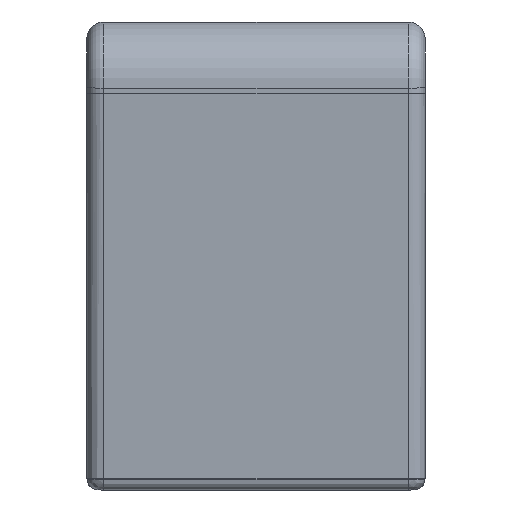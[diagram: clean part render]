
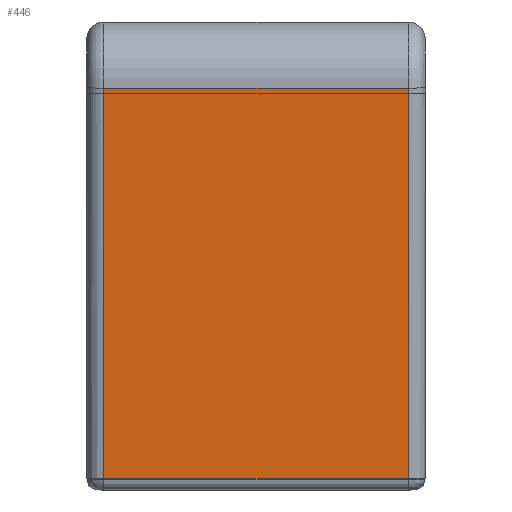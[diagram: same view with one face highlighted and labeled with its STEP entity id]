
A CAD part, left-side view. The second image highlights one B-rep face of the part: STEP entity #446.
In plain terms, the highlighted planar face has unit normal (-0.998, 0, -0.067).
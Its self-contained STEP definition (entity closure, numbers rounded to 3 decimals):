
#270 = EDGE_CURVE ( 'NONE', #4034, #4033, #801, .T. ) ;
#271 = EDGE_CURVE ( 'NONE', #4033, #4032, #799, .T. ) ;
#272 = EDGE_CURVE ( 'NONE', #4032, #4031, #797, .T. ) ;
#273 = EDGE_CURVE ( 'NONE', #4034, #4031, #795, .T. ) ;
#400 = EDGE_LOOP ( 'NONE', ( #1593, #1594, #1595, #1596 ) ) ;
#446 = ADVANCED_FACE ( 'NONE', ( #3691 ), #4940, .T. ) ;
#794 = VECTOR ( 'NONE', #4665, 1000. ) ;
#795 = LINE ( 'NONE', #4664, #794 ) ;
#796 = VECTOR ( 'NONE', #4663, 1000. ) ;
#797 = LINE ( 'NONE', #4662, #796 ) ;
#798 = VECTOR ( 'NONE', #4661, 1000. ) ;
#799 = LINE ( 'NONE', #4660, #798 ) ;
#800 = VECTOR ( 'NONE', #4659, 1000. ) ;
#801 = LINE ( 'NONE', #4658, #800 ) ;
#1593 = ORIENTED_EDGE ( 'NONE', *, *, #270, .T. ) ;
#1594 = ORIENTED_EDGE ( 'NONE', *, *, #271, .T. ) ;
#1595 = ORIENTED_EDGE ( 'NONE', *, *, #272, .T. ) ;
#1596 = ORIENTED_EDGE ( 'NONE', *, *, #273, .F. ) ;
#3017 = CARTESIAN_POINT ( 'NONE',  ( -470.388, -13.5, 28.632 ) ) ;
#3019 = CARTESIAN_POINT ( 'NONE',  ( -468.063, -13.5, -6.067 ) ) ;
#3021 = CARTESIAN_POINT ( 'NONE',  ( -468.063, 13.5, -6.067 ) ) ;
#3023 = CARTESIAN_POINT ( 'NONE',  ( -470.388, 13.5, 28.632 ) ) ;
#3549 = AXIS2_PLACEMENT_3D ( 'NONE', #4941, #4942, #4943 ) ;
#3691 = FACE_OUTER_BOUND ( 'NONE', #400, .T. ) ;
#4031 = VERTEX_POINT ( 'NONE', #3017 ) ;
#4032 = VERTEX_POINT ( 'NONE', #3019 ) ;
#4033 = VERTEX_POINT ( 'NONE', #3021 ) ;
#4034 = VERTEX_POINT ( 'NONE', #3023 ) ;
#4658 = CARTESIAN_POINT ( 'NONE',  ( -468., 13.5, -7. ) ) ;
#4659 = DIRECTION ( 'NONE',  ( 0.067, 0., -0.998 ) ) ;
#4660 = CARTESIAN_POINT ( 'NONE',  ( -468.063, 15., -6.067 ) ) ;
#4661 = DIRECTION ( 'NONE',  ( 0., -1., 0. ) ) ;
#4662 = CARTESIAN_POINT ( 'NONE',  ( -470.388, -13.5, 28.632 ) ) ;
#4663 = DIRECTION ( 'NONE',  ( -0.067, 0., 0.998 ) ) ;
#4664 = CARTESIAN_POINT ( 'NONE',  ( -470.388, 15., 28.632 ) ) ;
#4665 = DIRECTION ( 'NONE',  ( 0., -1., 0. ) ) ;
#4940 = PLANE ( 'NONE',  #3549 ) ;
#4941 = CARTESIAN_POINT ( 'NONE',  ( -468., 15., -7. ) ) ;
#4942 = DIRECTION ( 'NONE',  ( -0.998, 0., -0.067 ) ) ;
#4943 = DIRECTION ( 'NONE',  ( -0.067, 0., 0.998 ) ) ;
